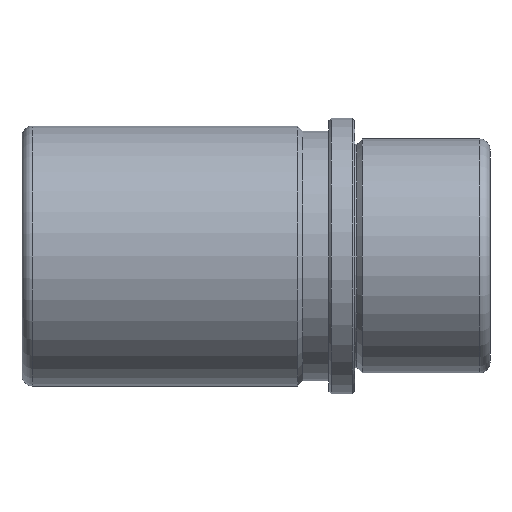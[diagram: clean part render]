
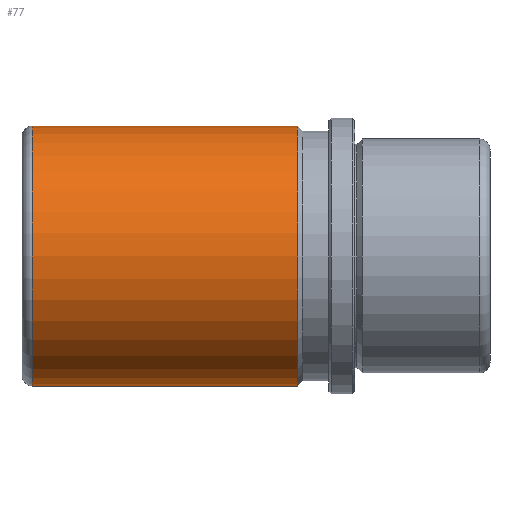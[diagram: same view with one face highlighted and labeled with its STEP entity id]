
A CAD part, front view. The second image highlights one B-rep face of the part: STEP entity #77.
In plain terms, the highlighted cylindrical face has radius 25 mm (diameter 50 mm), a full revolution.
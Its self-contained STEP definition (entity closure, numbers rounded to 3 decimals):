
#77 = ADVANCED_FACE( '', ( #169, #170, #171 ), #172, .T. );
#169 = FACE_OUTER_BOUND( '', #262, .T. );
#170 = FACE_BOUND( '', #263, .T. );
#171 = FACE_OUTER_BOUND( '', #264, .T. );
#172 = CYLINDRICAL_SURFACE( '', #265, 25. );
#262 = EDGE_LOOP( '', ( #381 ) );
#263 = EDGE_LOOP( '', ( #382 ) );
#264 = EDGE_LOOP( '', ( #383 ) );
#265 = AXIS2_PLACEMENT_3D( '', #384, #385, #386 );
#381 = ORIENTED_EDGE( '', *, *, #423, .T. );
#382 = ORIENTED_EDGE( '', *, *, #431, .T. );
#383 = ORIENTED_EDGE( '', *, *, #443, .F. );
#384 = CARTESIAN_POINT( '', ( 26., 0., 0. ) );
#385 = DIRECTION( '', ( -1., 0., 0. ) );
#386 = DIRECTION( '', ( 0., 0., -1. ) );
#423 = EDGE_CURVE( '', #473, #473, #474, .T. );
#431 = EDGE_CURVE( '', #486, #486, #487, .T. );
#443 = EDGE_CURVE( '', #504, #504, #505, .T. );
#473 = VERTEX_POINT( '', #538 );
#474 = CIRCLE( '', #539, 25. );
#486 = VERTEX_POINT( '', #616 );
#487 = B_SPLINE_CURVE_WITH_KNOTS( '', 3, ( #617, #618, #619, #620, #621, #622, #623, #624, #625, #626, #627, #628, #629, #630, #631, #632, #633, #634, #635, #636, #637, #638, #639, #640, #641, #642, #643, #644, #645, #646, #647, #648, #649, #650, #651, #652, #653, #654, #655, #656, #657, #658, #659, #660, #661, #662, #663, #664, #665, #666, #667, #668, #669, #670, #671, #672, #673, #674, #675, #676, #677, #678, #679, #680, #681, #682 ), .UNSPECIFIED., .T., .F., ( 2, 2, 2, 2, 2, 2, 2, 2, 2, 2, 2, 2, 2, 2, 2, 2, 2, 2, 2, 2, 2, 2, 2, 2, 2, 2, 2, 2, 2, 2, 2, 2, 2, 2, 2 ), ( -0.001, 0., 0.001, 0.002, 0.002, 0.003, 0.004, 0.005, 0.006, 0.007, 0.007, 0.008, 0.009, 0.01, 0.011, 0.011, 0.012, 0.013, 0.014, 0.015, 0.016, 0.016, 0.017, 0.018, 0.019, 0.02, 0.02, 0.021, 0.022, 0.023, 0.024, 0.025, 0.025, 0.026, 0.027 ), .UNSPECIFIED. );
#504 = VERTEX_POINT( '', #699 );
#505 = CIRCLE( '', #700, 25. );
#538 = CARTESIAN_POINT( '', ( -62., 0., -25. ) );
#539 = AXIS2_PLACEMENT_3D( '', #735, #736, #737 );
#616 = CARTESIAN_POINT( '', ( -18., 24.647, -4.188 ) );
#617 = CARTESIAN_POINT( '', ( -18.277, 24.647, -4.188 ) );
#618 = CARTESIAN_POINT( '', ( -17.723, 24.647, -4.188 ) );
#619 = CARTESIAN_POINT( '', ( -17.45, 24.651, -4.161 ) );
#620 = CARTESIAN_POINT( '', ( -16.914, 24.669, -4.054 ) );
#621 = CARTESIAN_POINT( '', ( -16.648, 24.682, -3.973 ) );
#622 = CARTESIAN_POINT( '', ( -16.141, 24.715, -3.763 ) );
#623 = CARTESIAN_POINT( '', ( -15.901, 24.735, -3.634 ) );
#624 = CARTESIAN_POINT( '', ( -15.446, 24.778, -3.33 ) );
#625 = CARTESIAN_POINT( '', ( -15.231, 24.801, -3.154 ) );
#626 = CARTESIAN_POINT( '', ( -14.846, 24.847, -2.768 ) );
#627 = CARTESIAN_POINT( '', ( -14.672, 24.87, -2.558 ) );
#628 = CARTESIAN_POINT( '', ( -14.366, 24.913, -2.1 ) );
#629 = CARTESIAN_POINT( '', ( -14.236, 24.932, -1.857 ) );
#630 = CARTESIAN_POINT( '', ( -14.027, 24.965, -1.353 ) );
#631 = CARTESIAN_POINT( '', ( -13.947, 24.978, -1.089 ) );
#632 = CARTESIAN_POINT( '', ( -13.839, 24.995, -0.548 ) );
#633 = CARTESIAN_POINT( '', ( -13.812, 25., -0.276 ) );
#634 = CARTESIAN_POINT( '', ( -13.812, 25., 0.271 ) );
#635 = CARTESIAN_POINT( '', ( -13.839, 24.995, 0.549 ) );
#636 = CARTESIAN_POINT( '', ( -13.946, 24.978, 1.087 ) );
#637 = CARTESIAN_POINT( '', ( -14.025, 24.965, 1.348 ) );
#638 = CARTESIAN_POINT( '', ( -14.236, 24.932, 1.856 ) );
#639 = CARTESIAN_POINT( '', ( -14.366, 24.913, 2.1 ) );
#640 = CARTESIAN_POINT( '', ( -14.669, 24.87, 2.553 ) );
#641 = CARTESIAN_POINT( '', ( -14.843, 24.847, 2.765 ) );
#642 = CARTESIAN_POINT( '', ( -15.233, 24.801, 3.156 ) );
#643 = CARTESIAN_POINT( '', ( -15.444, 24.778, 3.328 ) );
#644 = CARTESIAN_POINT( '', ( -15.897, 24.735, 3.632 ) );
#645 = CARTESIAN_POINT( '', ( -16.142, 24.715, 3.763 ) );
#646 = CARTESIAN_POINT( '', ( -16.648, 24.682, 3.973 ) );
#647 = CARTESIAN_POINT( '', ( -16.909, 24.669, 4.053 ) );
#648 = CARTESIAN_POINT( '', ( -17.447, 24.651, 4.16 ) );
#649 = CARTESIAN_POINT( '', ( -17.725, 24.647, 4.188 ) );
#650 = CARTESIAN_POINT( '', ( -18.272, 24.647, 4.188 ) );
#651 = CARTESIAN_POINT( '', ( -18.544, 24.651, 4.162 ) );
#652 = CARTESIAN_POINT( '', ( -19.086, 24.669, 4.054 ) );
#653 = CARTESIAN_POINT( '', ( -19.35, 24.682, 3.974 ) );
#654 = CARTESIAN_POINT( '', ( -19.854, 24.715, 3.765 ) );
#655 = CARTESIAN_POINT( '', ( -20.098, 24.735, 3.635 ) );
#656 = CARTESIAN_POINT( '', ( -20.555, 24.778, 3.33 ) );
#657 = CARTESIAN_POINT( '', ( -20.765, 24.801, 3.157 ) );
#658 = CARTESIAN_POINT( '', ( -21.152, 24.847, 2.771 ) );
#659 = CARTESIAN_POINT( '', ( -21.329, 24.87, 2.556 ) );
#660 = CARTESIAN_POINT( '', ( -21.632, 24.912, 2.102 ) );
#661 = CARTESIAN_POINT( '', ( -21.761, 24.932, 1.862 ) );
#662 = CARTESIAN_POINT( '', ( -21.972, 24.965, 1.355 ) );
#663 = CARTESIAN_POINT( '', ( -22.053, 24.978, 1.089 ) );
#664 = CARTESIAN_POINT( '', ( -22.16, 24.995, 0.554 ) );
#665 = CARTESIAN_POINT( '', ( -22.188, 25., 0.28 ) );
#666 = CARTESIAN_POINT( '', ( -22.188, 25., -0.273 ) );
#667 = CARTESIAN_POINT( '', ( -22.161, 24.995, -0.546 ) );
#668 = CARTESIAN_POINT( '', ( -22.055, 24.978, -1.082 ) );
#669 = CARTESIAN_POINT( '', ( -21.974, 24.965, -1.349 ) );
#670 = CARTESIAN_POINT( '', ( -21.765, 24.932, -1.855 ) );
#671 = CARTESIAN_POINT( '', ( -21.636, 24.913, -2.096 ) );
#672 = CARTESIAN_POINT( '', ( -21.332, 24.871, -2.551 ) );
#673 = CARTESIAN_POINT( '', ( -21.156, 24.847, -2.766 ) );
#674 = CARTESIAN_POINT( '', ( -20.771, 24.801, -3.152 ) );
#675 = CARTESIAN_POINT( '', ( -20.561, 24.778, -3.325 ) );
#676 = CARTESIAN_POINT( '', ( -20.102, 24.735, -3.633 ) );
#677 = CARTESIAN_POINT( '', ( -19.86, 24.716, -3.762 ) );
#678 = CARTESIAN_POINT( '', ( -19.357, 24.683, -3.971 ) );
#679 = CARTESIAN_POINT( '', ( -19.092, 24.669, -4.053 ) );
#680 = CARTESIAN_POINT( '', ( -18.551, 24.651, -4.161 ) );
#681 = CARTESIAN_POINT( '', ( -18.277, 24.647, -4.188 ) );
#682 = CARTESIAN_POINT( '', ( -17.723, 24.647, -4.188 ) );
#699 = CARTESIAN_POINT( '', ( -11., 0., -25. ) );
#700 = AXIS2_PLACEMENT_3D( '', #762, #763, #764 );
#735 = CARTESIAN_POINT( '', ( -62., 0., 0. ) );
#736 = DIRECTION( '', ( 1., 0., 0. ) );
#737 = DIRECTION( '', ( 0., 0., -1. ) );
#762 = CARTESIAN_POINT( '', ( -11., 0., 0. ) );
#763 = DIRECTION( '', ( 1., 0., 0. ) );
#764 = DIRECTION( '', ( 0., 0., -1. ) );
